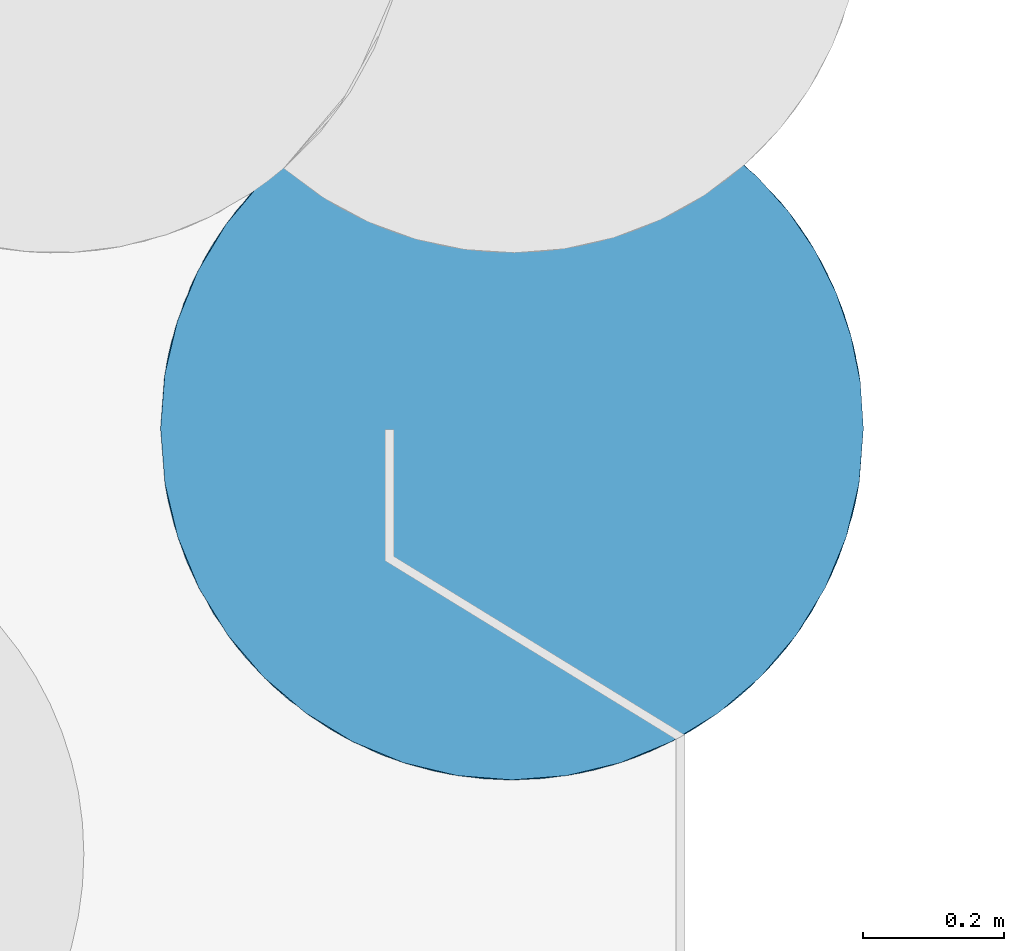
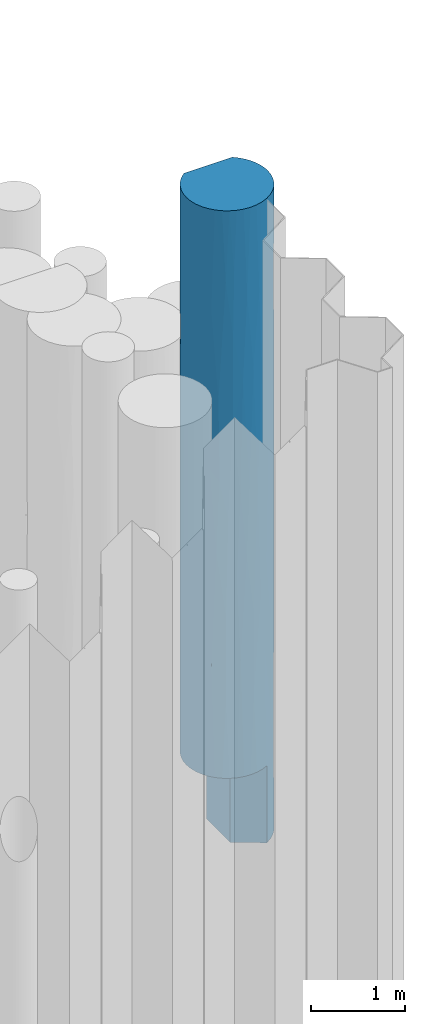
# One storey, part 100 of 104: 1 pile.
"""IFC2X3 building model written with IfcOpenShell, lengths in millimetres."""

from ifc_helpers import new_model, entity, si_unit, converted_unit, derived_unit, direction, frame, origin, place, context, subcontext, project, spatial, faceted_brep, source, transform, mapped, material, element, save


model = new_model("IFC2X3")

# Units and contexts
model_context = context("Model", 3, precision=0.01, world=origin(), true_north=direction((6.12303176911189e-17, 1.0)))
body_context = subcontext(model_context, "Body", "Model", "MODEL_VIEW")
ifc_project = project(units=[si_unit("LENGTHUNIT", "METRE", prefix="MILLI"), si_unit("AREAUNIT", "SQUARE_METRE", prefix="MILLI"), si_unit("VOLUMEUNIT", "CUBIC_METRE"), converted_unit("PLANEANGLEUNIT", "DEGREE", entity("IfcRatioMeasure", 0.0174532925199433), si_unit("PLANEANGLEUNIT", "RADIAN"), dimensions=[0, 0, 0, 0, 0, 0, 0]), si_unit("MASSUNIT", "GRAM", prefix="KILO"), derived_unit("MASSDENSITYUNIT", [(si_unit("MASSUNIT", "GRAM", prefix="KILO"), 1), (si_unit("LENGTHUNIT", "METRE"), -3)]), derived_unit("MOMENTOFINERTIAUNIT", [(si_unit("LENGTHUNIT", "METRE"), 4)]), si_unit("TIMEUNIT", "SECOND"), si_unit("FREQUENCYUNIT", "HERTZ"), si_unit("THERMODYNAMICTEMPERATUREUNIT", "DEGREE_CELSIUS"), derived_unit("THERMALTRANSMITTANCEUNIT", [(si_unit("MASSUNIT", "GRAM", prefix="KILO"), 1), (si_unit("THERMODYNAMICTEMPERATUREUNIT", "KELVIN"), -1), (si_unit("TIMEUNIT", "SECOND"), -3)]), derived_unit("VOLUMETRICFLOWRATEUNIT", [(si_unit("LENGTHUNIT", "METRE"), 3), (si_unit("TIMEUNIT", "SECOND"), -1)]), si_unit("ELECTRICCURRENTUNIT", "AMPERE"), si_unit("ELECTRICVOLTAGEUNIT", "VOLT"), si_unit("POWERUNIT", "WATT"), si_unit("FORCEUNIT", "NEWTON", prefix="KILO"), si_unit("ILLUMINANCEUNIT", "LUX"), si_unit("LUMINOUSFLUXUNIT", "LUMEN"), si_unit("LUMINOUSINTENSITYUNIT", "CANDELA"), derived_unit("USERDEFINED", [(si_unit("MASSUNIT", "GRAM", prefix="KILO"), -1), (si_unit("LENGTHUNIT", "METRE"), -2), (si_unit("TIMEUNIT", "SECOND"), 3), (si_unit("LUMINOUSFLUXUNIT", "LUMEN"), 1)]), derived_unit("LINEARVELOCITYUNIT", [(si_unit("LENGTHUNIT", "METRE"), 1), (si_unit("TIMEUNIT", "SECOND"), -1)]), si_unit("PRESSUREUNIT", "PASCAL"), derived_unit("USERDEFINED", [(si_unit("LENGTHUNIT", "METRE"), -2), (si_unit("MASSUNIT", "GRAM", prefix="KILO"), 1), (si_unit("TIMEUNIT", "SECOND"), -2)]), derived_unit("LINEARFORCEUNIT", [(si_unit("MASSUNIT", "GRAM", prefix="KILO"), 1), (si_unit("LENGTHUNIT", "METRE"), 1), (si_unit("TIMEUNIT", "SECOND"), -2), (si_unit("LENGTHUNIT", "METRE"), -1)]), derived_unit("PLANARFORCEUNIT", [(si_unit("MASSUNIT", "GRAM", prefix="KILO"), 1), (si_unit("LENGTHUNIT", "METRE"), 1), (si_unit("TIMEUNIT", "SECOND"), -2), (si_unit("LENGTHUNIT", "METRE"), -2)])], contexts=[model_context])

# Site, building, storey
site_placement = place(None, origin())
site = spatial("IfcSite", under=ifc_project, at=site_placement, Name="Theater aan de Parade", CompositionType="ELEMENT")
building_placement = place(site_placement, origin())
building = spatial("IfcBuilding", under=site, at=building_placement, Name="Theater aan de Parade", CompositionType="ELEMENT")
storey_placement = place(building_placement, frame((0.0, 0.0, -5520.0)))
storey = spatial("IfcBuildingStorey", under=building, at=storey_placement, Name="-2 kelder", CompositionType="ELEMENT", Elevation=-5520.0)

# Pile
ifc_material = material(Name="00_PBT_MAT_grout")
shared_shape = source(origin(), body_context, "Body", "Brep", [
    faceted_brep([(770.871789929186, 830.299465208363, 0.0), (832.314186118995, 876.595272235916, 0.0), (881.822434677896, 826.290983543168, 0.0), (923.771781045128, 769.488899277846, 0.0), (957.301975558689, 707.341233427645, 0.0), (981.74330748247, 641.086720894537, 0.0), (996.606788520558, 572.048084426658, 0.0), (1001.59527223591, 501.595272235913, 0.0), (995.897713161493, 426.328434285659, 0.0), (978.935325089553, 352.778358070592, 0.0), (951.094810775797, 282.620011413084, 0.0), (913.010956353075, 217.452465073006, 0.0), (865.551878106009, 158.760634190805, 0.0), (809.799281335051, 107.88181199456, 0.0), (747.105277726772, 66.0302504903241, 0.0), (740.926580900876, 62.595813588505, 0.0), (734.726926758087, 59.272277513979, 0.0), (401.595272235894, 263.735660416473, 0.0), (401.595272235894, 761.697323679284, 0.0), (477.932834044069, 752.155497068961, 0.0), (554.830577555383, 754.437347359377, 0.0), (630.468034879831, 768.488854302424, 0.0), (703.054573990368, 793.977364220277, 0.0), (987.547939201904, 619.281318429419, 4708.12497229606), (1001.59527223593, 501.595272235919, 5231.25), (1001.59527223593, 501.595272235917, 4185.0), (991.044227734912, 603.770220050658, 6520.00001925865), (974.219097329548, 664.772231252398, 7530.98170234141), (1001.59527223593, 501.595272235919, 7323.74999999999), (941.63540237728, 739.007748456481, 1966.46274083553), (970.693809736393, 674.646022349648, 1063.65623429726), (921.2564424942, 773.412310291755, 1017.10994283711), (982.952048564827, 636.856700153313, 5633.41490432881), (1001.59527223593, 501.595272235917, 6277.5), (1001.59527223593, 501.595272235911, 5246.95201421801), (988.144010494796, 616.792170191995, 2148.29182678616), (959.404576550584, 702.619253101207, 6320.0), (959.404576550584, 702.619253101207, 6720.0), (903.432070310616, 799.130459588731, 3522.69098420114), (899.551672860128, 804.300910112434, 4823.55689182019), (943.665169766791, 735.206499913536, 4306.42935662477), (832.314186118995, 876.595272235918, 6320.0), (882.945247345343, 824.971518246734, 6320.0), (832.314186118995, 876.595272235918, 4721.53772671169), (832.314186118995, 876.595272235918, 1561.53758584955), (997.17946559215, 567.899927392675, 8370.0), (1001.59527223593, 501.595272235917, 8370.0), (1001.59527223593, 501.595272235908, 7589.21504739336), (1001.59527223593, 501.595272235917, 780.768859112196), (932.524912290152, 755.169019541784, 8370.0), (962.335213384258, 695.80831667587, 8370.0), (984.014995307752, 633.015250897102, 8370.0), (912.089092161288, 787.068254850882, 7539.19405571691), (982.884519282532, 637.096787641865, 3365.29841226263), (1001.59527223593, 501.595272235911, 3123.047985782), (1001.59527223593, 501.595272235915, 2873.26885911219), (1001.59527223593, 501.595272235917, 1561.53771822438), (892.800783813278, 812.976465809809, 6720.0), (849.412736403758, 860.793005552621, 6720.0), (994.617082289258, 584.838859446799, 1171.15327801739), (925.609923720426, 766.569941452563, 6320.0), (943.66516990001, 735.206499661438, 5340.68441338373), (1001.59527223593, 501.595272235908, 6808.52191943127), (832.314186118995, 876.595272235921, 3922.30659006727), (892.794685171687, 812.984127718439, 2539.13160477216), (832.314186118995, 876.595272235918, 3123.07545342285), (850.753661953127, 859.489696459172, 8370.0), (895.11105601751, 810.051635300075, 8370.0), (929.664368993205, 759.968739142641, 6720.0), (800.225087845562, 902.619253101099, 7500.7687984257), (800.225087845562, 902.619253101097, 6720.0), (800.225087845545, 902.619253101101, 8370.0), (950.693825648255, 721.391744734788, 3480.4309616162), (122.950427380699, 175.055716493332, 2410.0843275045), (98.3404428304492, 205.984814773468, 1000.0), (149.926579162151, 146.167177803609, 1000.0), (995.439442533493, 423.378039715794, 8370.0), (977.123530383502, 347.086775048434, 8370.0), (992.78524905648, 408.147925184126, 7198.84672060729), (389.271562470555, 14.3752149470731, 2524.16102548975), (428.107597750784, 7.02519459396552, 1000.0), (546.38750317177, 3.60565783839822, 2023.84597193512), (462.365724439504, 3.13660536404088, 7230.48180055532), (415.053067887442, 9.14177507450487, 6148.72769110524), (540.82482020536, 3.13660537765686, 6277.64902594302), (263.417261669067, 61.9690272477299, 4371.10040172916), (161.635668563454, 134.951756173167, 3917.59583609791), (243.298763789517, 73.4797344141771, 3110.2313261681), (56.8183843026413, 273.180036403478, 1000.0), (7.83455139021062, 422.852967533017, 1000.0), (11.1706827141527, 404.210869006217, 2293.82507850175), (1.5952722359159, 501.595272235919, 1000.0), (990.322839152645, 396.023659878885, 4601.67544470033), (957.695725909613, 296.723663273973, 3933.91935776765), (989.548135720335, 392.498970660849, 3430.95266247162), (320.78504298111, 35.4325742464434, 7573.08221403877), (240.345989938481, 75.2751900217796, 7436.20249185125), (310.253556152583, 39.6555059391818, 6742.39678732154), (699.05980340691, 42.2394635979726, 2524.16102519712), (817.446970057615, 113.990183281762, 1619.20905589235), (810.287487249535, 108.264474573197, 2852.64706515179), (952.081335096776, 284.656785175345, 2738.79716932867), (991.433338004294, 401.302354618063, 2377.76120332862), (243.298763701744, 73.4797344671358, 2023.84597219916), (351.137442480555, 24.7698938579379, 1000.0), (121.392289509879, 176.871247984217, 7059.72320785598), (148.041881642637, 148.041881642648, 8370.0), (40.1657833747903, 309.026253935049, 2503.62242250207), (210.289352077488, 95.2200012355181, 1000.0), (277.922280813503, 54.4147796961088, 1000.0), (807.209962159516, 105.868521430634, 813.776263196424), (890.390500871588, 187.209728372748, 1061.02822404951), (985.271371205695, 374.877352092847, 5893.06963973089), (506.91179348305, 1.62353843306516, 1000.0), (585.583304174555, 8.69973513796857, 1000.0), (890.390500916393, 187.209728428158, 2177.38988758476), (894.869452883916, 192.830930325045, 3410.44282522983), (36.2135120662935, 318.784393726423, 5388.39479917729), (76.2504148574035, 238.76119472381, 3869.25879503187), (112.513600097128, 187.564298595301, 4984.00541361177), (26.3966744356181, 346.075843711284, 1000.0), (39.6555060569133, 310.25355586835, 6308.17154752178), (39.6555060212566, 310.253555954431, 7370.66061459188), (12.9280755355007, 395.744571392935, 6839.41608086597), (39.5302034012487, 310.556343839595, 3387.81663149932), (20.9037533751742, 363.988354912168, 4575.57786477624), (11.8157539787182, 401.016827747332, 3232.88442729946), (7.75110193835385, 423.378039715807, 8370.0), (1.5952722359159, 501.595272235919, 8370.0), (1.5952722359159, 501.595272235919, 7589.23299295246), (1.5952722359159, 501.595272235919, 6808.45885589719), (947.098534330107, 274.600022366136, 8370.0), (963.535038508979, 310.253556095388, 7080.59324549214), (56.09201014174, 274.600022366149, 8370.0), (26.0670140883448, 347.086775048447, 8370.0), (644.482386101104, 22.4467851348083, 3295.25085188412), (598.328457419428, 11.0418185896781, 4675.26615390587), (546.387503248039, 3.6056578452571, 3110.23132560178), (662.158715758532, 28.0771832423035, 1000.0), (97.086775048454, 207.702646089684, 8370.0), (389.271562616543, 14.3752149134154, 4682.96392055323), (308.452166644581, 40.40578757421, 5564.61929110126), (618.317954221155, 15.4103120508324, 7230.48180070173), (660.411732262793, 27.4883939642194, 6175.89765401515), (762.844554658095, 75.2751900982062, 6612.75580358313), (274.600022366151, 56.0920101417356, 8370.0), (207.702646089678, 97.0867750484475, 8370.0), (460.294261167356, 3.30396538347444, 3836.0735966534), (493.657594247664, 1.65828293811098, 4757.14680371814), (423.378039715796, 7.75110193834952, 8370.0), (176.87124820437, 121.392289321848, 5908.10962635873), (501.595272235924, 1.5952722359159, 8370.0), (841.796813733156, 135.176234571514, 5723.8302852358), (881.798255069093, 176.871248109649, 7080.59324537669), (734.72692675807, 59.2722775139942, 1000.0), (97.8754022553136, 206.62024518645, 6039.37968862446), (993.058647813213, 409.596628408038, 1004.42648477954), (730.988121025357, 57.3217968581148, 3673.16571335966), (906.103769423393, 207.702646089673, 8370.0), (966.340853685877, 317.173081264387, 1503.70220925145), (348.591887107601, 25.5806042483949, 3603.56247310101), (579.812504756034, 7.75110193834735, 8370.0), (837.259672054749, 131.0154418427, 4868.68618718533), (899.344862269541, 198.61794036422, 4723.22742854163), (656.103769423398, 26.0670140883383, 8370.0), (762.844554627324, 75.2751900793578, 7528.42562980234), (728.590522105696, 56.0920101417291, 8370.0), (795.487898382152, 97.0867750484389, 8370.0), (927.915354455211, 240.345989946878, 5952.78193641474), (855.148662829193, 148.041881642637, 8370.0), (956.603892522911, 294.310069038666, 4996.08343107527), (1.5952722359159, 501.595272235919, 3904.21045994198), (1.5952722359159, 501.595272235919, 3623.26427277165), (1.5952722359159, 501.595272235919, 2561.52217609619), (10.9686450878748, 405.233906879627, 5796.39828494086), (347.086775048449, 26.0670140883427, 8370.0), (1.5952722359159, 501.595272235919, 5246.91771179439), (1.5952722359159, 501.595272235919, 4684.99453144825), (825.193624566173, 120.433749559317, 3988.99940201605), (762.84455470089, 75.2751901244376, 4818.846392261), (186.456332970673, 113.410459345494, 4843.74509710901), (680.503086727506, 34.6991446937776, 5076.38298115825), (740.646531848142, 62.4432538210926, 5715.80109787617), (1.5952722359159, 501.595272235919, 6527.50273427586), (1.5952722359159, 501.595272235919, 5606.24863286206), (202.965456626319, 902.619253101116, 8370.0), (144.593900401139, 851.666722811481, 8370.0), (94.7951473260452, 792.307601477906, 8370.0), (54.7651031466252, 725.967284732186, 8370.0), (25.4650925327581, 654.238817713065, 8370.0), (7.59879210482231, 578.844722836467, 8370.0), (49.2994735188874, 714.734922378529, 1000.0), (85.3376468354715, 778.596335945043, 1000.0), (130.318955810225, 836.489131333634, 1000.0), (153.991316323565, 853.40356900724, 1000.0), (176.595272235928, 871.628168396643, 1000.0), (227.153587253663, 833.645799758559, 1000.0), (282.101655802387, 802.348622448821, 1000.0), (340.560571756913, 778.237241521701, 1000.0), (401.595272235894, 761.697323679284, 1000.0), (401.595272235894, 263.735660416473, 1000.0), (6.97279237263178, 574.729412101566, 1000.0), (22.9890823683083, 646.2884476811, 1000.0), (768.800439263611, 828.982685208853, 6320.0), (698.552102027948, 792.021548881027, 6320.0), (623.33970071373, 766.643425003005, 6320.0), (545.058874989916, 753.487939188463, 6320.0), (465.682600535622, 752.886659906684, 6320.0), (387.211462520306, 764.854741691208, 6320.0), (311.623233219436, 789.090543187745, 6320.0), (240.823024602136, 824.983229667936, 6320.0), (176.595272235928, 871.628168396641, 6320.0), (153.991316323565, 853.403569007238, 6320.0), (130.318955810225, 836.489131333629, 6320.0), (96.7667567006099, 795.046925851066, 6320.0), (67.8227250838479, 750.274538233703, 6320.0), (43.7859679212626, 702.61925310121, 6320.0), (43.7859679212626, 702.619253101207, 6720.0), (73.5254522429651, 759.967540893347, 6720.0), (110.394429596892, 812.982331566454, 6720.0), (153.787933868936, 860.802810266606, 6720.0), (202.965456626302, 902.619253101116, 6720.0), (153.802921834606, 853.260568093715, 1740.58338739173), (130.318955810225, 836.489131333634, 1823.85201305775), (153.234451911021, 852.829921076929, 2021.1478049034), (130.318955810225, 836.489131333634, 4172.88647080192), (130.318955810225, 836.489131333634, 4368.08414943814), (130.318955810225, 836.489131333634, 4563.28182807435), (154.612100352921, 853.875770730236, 4405.38671347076), (130.318955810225, 836.489131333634, 1549.23467537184), (156.118845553, 855.028262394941, 1519.95469385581), (153.967988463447, 853.385854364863, 1292.78831994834), (153.967988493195, 853.385854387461, 4621.15450615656), (152.825285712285, 852.520744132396, 3294.52069218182), (130.318955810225, 836.489131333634, 3196.93870148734), (130.318955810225, 836.489131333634, 3392.13638012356), (153.967988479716, 853.385854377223, 5344.0389329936), (153.967988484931, 853.385854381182, 5067.76019476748), (153.967988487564, 853.385854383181, 4845.59628334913), (130.318955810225, 836.489131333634, 4758.47950671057), (130.318955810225, 836.489131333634, 4953.67718534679), (130.318955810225, 836.489131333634, 5148.85455204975), (130.318955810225, 836.489131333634, 5344.03191875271), (130.318955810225, 836.489131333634, 5539.22959738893), (130.318955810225, 836.489131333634, 5734.42727602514), (130.318955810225, 836.489131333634, 5929.62495466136), (130.318955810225, 836.489131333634, 6124.82263329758), (153.967988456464, 853.385854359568, 6027.21167991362), (153.967988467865, 853.385854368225, 5759.23593356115), (153.967988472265, 853.385854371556, 5552.00433968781), (130.318955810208, 836.489131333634, 1195.19767863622), (153.175040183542, 852.784987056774, 2998.94030647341), (153.447299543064, 852.991015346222, 2785.0012257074), (176.595272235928, 871.628168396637, 2995.0), (176.595272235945, 871.628168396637, 6124.80988958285), (176.595272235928, 871.628168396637, 5929.59849575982), (176.595272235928, 871.628168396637, 5734.40838534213), (176.595272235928, 871.628168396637, 5539.21827492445), (176.595272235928, 871.628168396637, 5344.02816450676), (176.595272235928, 871.628168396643, 5221.53770730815), (176.595272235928, 871.628168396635, 5148.83805408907), (176.595272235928, 871.628168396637, 4953.64794367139), (176.595272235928, 871.628168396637, 4758.4578332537), (176.595272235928, 871.628168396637, 4483.83805408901), (176.595272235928, 871.628168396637, 1195.19011041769), (176.595272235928, 871.628168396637, 1390.38022083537), (155.105235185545, 854.251966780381, 4075.28954581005), (176.595272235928, 871.628168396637, 3934.61977916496), (152.562458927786, 852.322492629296, 3835.72823263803), (152.616886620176, 852.363525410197, 2235.77007934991), (176.595272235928, 871.628168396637, 2330.0), (176.595272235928, 871.628168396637, 1997.48935829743), (176.595272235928, 871.628168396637, 2662.51064170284), (154.547417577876, 853.826498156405, 2510.38565253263), (176.595272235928, 871.628168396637, 3660.0), (153.920726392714, 853.349971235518, 3626.05736512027), (130.318955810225, 836.489131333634, 3977.70910409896), (176.595272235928, 871.628168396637, 1665.0), (130.318955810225, 836.489131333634, 2373.08668842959), (130.318955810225, 836.489131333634, 2647.70402611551), (130.318955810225, 836.489131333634, 1780.7682921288), (176.595272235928, 871.628168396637, 4209.21827492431), (176.595272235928, 871.628168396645, 4123.07541461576), (130.318955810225, 836.489131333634, 3782.531737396), (130.318955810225, 836.489131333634, 3587.33405875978), (176.595272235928, 871.628168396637, 3327.48935829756), (130.318955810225, 836.489131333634, 2098.46935074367), (130.318955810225, 836.489131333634, 2922.32136380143), (176.595272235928, 871.628168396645, 2561.53770730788), (310.949554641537, 789.367827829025, 2162.86006174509), (729.699011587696, 806.658553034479, 2311.82929668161), (667.252249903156, 779.834988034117, 1094.82282342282), (592.919958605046, 760.006214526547, 2002.08069310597), (439.109004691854, 755.515171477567, 2170.5800046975), (558.869833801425, 754.886479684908, 1025.70188164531), (275.509726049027, 805.629661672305, 4978.87145291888), (370.816180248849, 769.001417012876, 3211.04271841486), (696.612329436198, 791.19506871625, 5242.24654559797), (763.038601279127, 825.394162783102, 979.572942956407), (634.896696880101, 769.692034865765, 3262.54319216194), (661.450316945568, 777.837565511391, 4221.25741031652), (734.077239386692, 808.930461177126, 3404.28590953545), (584.460766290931, 758.509772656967, 5175.37176489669), (308.284558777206, 790.476016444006, 4021.56542098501), (426.209154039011, 757.311008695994, 4743.38912991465), (529.5880539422, 752.37948305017, 3400.26724881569), (260.428712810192, 813.601333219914, 3133.96987814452), (751.522700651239, 818.540679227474, 4482.25498387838), (563.597258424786, 755.454411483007, 4270.65246311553), (202.965456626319, 902.619253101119, 7500.76983670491), (62.6918402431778, 741.102636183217, 5086.96864073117), (9.81023703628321, 591.858659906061, 2771.92598839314), (15.7412238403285, 619.687793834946, 3879.42082692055), (13.667321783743, 610.802942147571, 1930.37354578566), (46.2578055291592, 708.157106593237, 7554.0277340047), (66.1462708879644, 747.327173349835, 1930.3723485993), (15.069320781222, 616.888370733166, 7476.16246529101), (12.4927515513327, 605.415907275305, 6520.0), (91.1031935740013, 787.07075867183, 7519.34132705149), (17.9726284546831, 628.517052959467, 5236.62099040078), (34.8878069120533, 680.994664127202, 2654.58414948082), (77.7549544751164, 766.848707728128, 2800.84051817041), (73.1115211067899, 759.280496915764, 3977.69343679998)], [[[0, 1, 2, 3, 4, 5, 6, 7, 8, 9, 10, 11, 12, 13, 14, 15, 16, 17, 18, 19, 20, 21, 22]], [[23, 24, 25]], [[26, 27, 28]], [[29, 30, 31]], [[3, 31, 4]], [[32, 33, 34, 24]], [[30, 29, 35]], [[26, 36, 37]], [[38, 39, 40]], [[41, 42, 43]], [[32, 24, 23]], [[1, 44, 2]], [[45, 28, 27]], [[45, 46, 47, 28]], [[7, 6, 48]], [[49, 50, 27]], [[51, 27, 50]], [[52, 49, 27]], [[53, 25, 54, 55]], [[27, 37, 52]], [[35, 55, 56]], [[4, 31, 30]], [[52, 57, 58]], [[56, 48, 59]], [[44, 31, 2]], [[60, 61, 42]], [[4, 30, 5]], [[60, 36, 61]], [[26, 28, 62, 33]], [[27, 51, 45]], [[43, 39, 63]], [[26, 37, 27]], [[38, 64, 65]], [[52, 66, 67]], [[52, 68, 57]], [[69, 52, 58]], [[59, 5, 30]], [[69, 66, 52]], [[52, 37, 68]], [[58, 70, 69]], [[66, 69, 71]], [[36, 26, 32]], [[39, 61, 40]], [[32, 61, 36]], [[39, 42, 61]], [[23, 53, 40]], [[49, 52, 67]], [[61, 23, 40]], [[6, 5, 59]], [[53, 23, 25]], [[65, 63, 38]], [[29, 53, 35]], [[55, 35, 53]], [[32, 26, 33]], [[61, 32, 23]], [[2, 31, 3]], [[64, 31, 44]], [[63, 39, 38]], [[42, 39, 43]], [[64, 72, 29]], [[72, 38, 40]], [[38, 72, 64]], [[31, 64, 29]], [[44, 65, 64]], [[40, 53, 72]], [[29, 72, 53]], [[59, 35, 56]], [[6, 59, 48]], [[35, 59, 30]], [[73, 74, 75]], [[76, 77, 78]], [[79, 80, 81]], [[82, 83, 84]], [[85, 86, 87]], [[74, 73, 88]], [[89, 90, 91]], [[92, 93, 94]], [[95, 96, 97]], [[98, 99, 100]], [[101, 102, 94]], [[103, 79, 87]], [[103, 104, 79]], [[105, 96, 106]], [[73, 107, 88]], [[104, 80, 79]], [[108, 109, 103]], [[99, 110, 111]], [[112, 62, 78]], [[81, 113, 114]], [[100, 115, 116]], [[117, 118, 119]], [[120, 107, 90]], [[121, 122, 123]], [[124, 125, 126]], [[120, 88, 107]], [[127, 128, 129, 130]], [[131, 132, 77]], [[119, 118, 86]], [[122, 133, 134]], [[135, 136, 137]], [[81, 138, 98]], [[105, 139, 122]], [[105, 106, 139]], [[140, 141, 85]], [[142, 143, 144]], [[96, 145, 146]], [[147, 136, 148]], [[95, 82, 149]], [[96, 150, 97]], [[82, 151, 149]], [[152, 153, 144]], [[13, 110, 14]], [[73, 87, 86]], [[154, 16, 15]], [[103, 73, 75]], [[150, 155, 119]], [[154, 15, 14]], [[111, 110, 12]], [[122, 139, 133]], [[156, 8, 7]], [[81, 80, 113]], [[157, 98, 100]], [[132, 131, 158, 153]], [[159, 10, 9]], [[102, 56, 55, 54]], [[156, 9, 8]], [[160, 140, 85]], [[12, 11, 111]], [[160, 147, 140]], [[103, 75, 108]], [[161, 151, 82, 142]], [[138, 154, 98]], [[123, 127, 130]], [[81, 98, 135]], [[159, 115, 111]], [[162, 163, 152]], [[164, 142, 165]], [[166, 165, 167]], [[156, 7, 48, 56]], [[164, 161, 142]], [[168, 132, 153]], [[78, 62, 28, 47]], [[142, 82, 84]], [[111, 10, 159]], [[169, 165, 153]], [[154, 110, 99]], [[107, 126, 90]], [[112, 170, 92]], [[126, 171, 172, 173]], [[158, 169, 153]], [[83, 141, 140]], [[121, 123, 174]], [[96, 95, 145]], [[165, 169, 167]], [[124, 73, 118]], [[112, 34, 33, 62]], [[165, 166, 164]], [[95, 149, 175]], [[83, 82, 97]], [[143, 142, 84]], [[142, 144, 165]], [[111, 11, 10]], [[111, 115, 99]], [[81, 114, 138]], [[79, 81, 137]], [[103, 109, 104]], [[73, 103, 87]], [[122, 134, 127]], [[105, 122, 121]], [[106, 96, 146]], [[150, 96, 105]], [[77, 132, 78]], [[47, 46, 76]], [[153, 165, 144]], [[76, 78, 47]], [[78, 132, 112]], [[132, 168, 112]], [[93, 170, 163]], [[93, 163, 116]], [[93, 116, 101]], [[125, 176, 177, 171]], [[126, 173, 90]], [[125, 117, 174]], [[100, 99, 115]], [[98, 154, 99]], [[115, 101, 116]], [[116, 178, 100]], [[92, 170, 93]], [[157, 178, 179]], [[152, 163, 168]], [[163, 162, 178]], [[141, 83, 97]], [[148, 83, 140]], [[97, 150, 141]], [[87, 79, 160]], [[150, 180, 141]], [[86, 85, 180]], [[157, 179, 181]], [[135, 98, 157]], [[143, 182, 144]], [[147, 148, 140]], [[115, 159, 101]], [[102, 101, 159]], [[153, 152, 168]], [[152, 144, 182]], [[86, 180, 119]], [[73, 86, 118]], [[155, 150, 105]], [[117, 121, 174]], [[84, 136, 143]], [[182, 181, 179]], [[127, 123, 122]], [[174, 130, 183, 184, 176]], [[130, 174, 123]], [[125, 174, 176]], [[102, 159, 156]], [[94, 102, 54]], [[100, 178, 157]], [[163, 178, 116]], [[87, 160, 85]], [[147, 79, 137]], [[79, 147, 160]], [[136, 147, 137]], [[136, 84, 148]], [[83, 148, 84]], [[94, 25, 92]], [[101, 94, 93]], [[34, 112, 92]], [[170, 112, 168]], [[25, 94, 54]], [[92, 25, 24, 34]], [[168, 163, 170]], [[118, 117, 125]], [[155, 117, 119]], [[124, 126, 107]], [[125, 171, 126]], [[105, 121, 155]], [[117, 155, 121]], [[82, 95, 97]], [[145, 95, 175]], [[181, 143, 136]], [[152, 182, 179]], [[143, 181, 182]], [[157, 181, 136]], [[91, 90, 173]], [[120, 90, 89]], [[102, 156, 56]], [[9, 156, 159]], [[14, 110, 154]], [[110, 13, 12]], [[136, 135, 157]], [[81, 135, 137]], [[152, 179, 162]], [[178, 162, 179]], [[141, 180, 85]], [[150, 119, 180]], [[73, 124, 107]], [[125, 124, 118]], [[67, 66, 71, 185, 186, 187, 188, 189, 190, 128, 127, 134, 133, 139, 106, 146, 145, 175, 149, 151, 161, 164, 166, 167, 169, 158, 131, 77, 76, 46, 45, 51, 50, 49]], [[191, 192, 193, 194, 195, 196, 197, 198, 199, 200, 154, 138, 114, 113, 80, 104, 109, 108, 75, 74, 88, 120, 89, 91, 201, 202]], [[36, 60, 42, 41, 203, 204, 205, 206, 207, 208, 209, 210, 211, 212, 213, 214, 215, 216]], [[70, 58, 57, 68, 37, 217, 218, 219, 220, 221]], [[37, 36, 216, 217]], [[222, 223, 224]], [[225, 226, 227, 228]], [[229, 230, 231]], [[228, 227, 232]], [[233, 234, 235]], [[236, 237, 238, 232, 227, 239, 240, 241, 242, 243, 244, 245, 246, 247, 248, 249]], [[231, 250, 229]], [[234, 233, 251]], [[252, 251, 253]], [[254, 255, 256, 257, 258, 259, 260, 261, 262, 263, 232, 238, 237, 236, 249, 248, 247]], [[264, 231, 265]], [[266, 267, 268]], [[269, 270, 271]], [[272, 273, 252]], [[274, 275, 268]], [[276, 266, 268]], [[194, 231, 264]], [[222, 277, 230]], [[247, 212, 254]], [[194, 193, 250]], [[213, 212, 246]], [[230, 265, 231]], [[247, 246, 212]], [[212, 211, 254]], [[264, 195, 194]], [[232, 263, 228]], [[250, 231, 194]], [[230, 277, 265]], [[224, 269, 271]], [[278, 279, 273]], [[229, 222, 230]], [[277, 222, 271]], [[222, 229, 280, 223]], [[228, 263, 281]], [[266, 225, 228]], [[266, 276, 225]], [[281, 266, 228]], [[266, 281, 282, 267]], [[283, 276, 268]], [[268, 267, 274]], [[278, 273, 269]], [[284, 283, 275, 235]], [[274, 285, 275]], [[269, 286, 278]], [[252, 287, 251]], [[287, 252, 279]], [[273, 272, 288, 270]], [[279, 252, 273]], [[272, 252, 253]], [[285, 253, 233]], [[251, 287, 234]], [[224, 286, 269]], [[270, 269, 273]], [[286, 224, 223]], [[224, 271, 222]], [[268, 275, 283]], [[233, 253, 251]], [[275, 233, 235]], [[285, 233, 275]], [[198, 289, 199]], [[290, 291, 292]], [[199, 289, 293]], [[294, 292, 291]], [[209, 295, 210]], [[196, 195, 264, 265, 277, 271, 270, 288]], [[295, 209, 208]], [[296, 293, 289]], [[289, 197, 196]], [[290, 65, 44]], [[204, 297, 205]], [[22, 21, 291]], [[295, 259, 210]], [[0, 298, 1]], [[299, 300, 301]], [[206, 205, 302]], [[303, 295, 304]], [[203, 297, 204]], [[19, 18, 199]], [[290, 298, 291]], [[21, 294, 291]], [[206, 302, 207]], [[296, 304, 305]], [[303, 306, 282]], [[288, 289, 196]], [[291, 298, 22]], [[304, 295, 208]], [[307, 43, 63, 65]], [[294, 21, 20]], [[207, 304, 208]], [[306, 289, 288]], [[20, 19, 294]], [[207, 302, 304]], [[305, 293, 296]], [[296, 289, 306]], [[300, 302, 297]], [[297, 302, 205]], [[298, 44, 1]], [[43, 203, 41]], [[305, 304, 308]], [[0, 22, 298]], [[289, 198, 197]], [[301, 307, 65]], [[199, 293, 294]], [[290, 299, 301]], [[293, 305, 292]], [[302, 300, 308]], [[296, 306, 303]], [[306, 288, 272, 253, 285, 274, 267, 282]], [[296, 303, 304]], [[295, 303, 282]], [[297, 307, 300]], [[43, 297, 203]], [[292, 294, 293]], [[199, 294, 19]], [[301, 300, 307]], [[307, 297, 43]], [[299, 308, 300]], [[290, 301, 65]], [[299, 292, 305]], [[292, 299, 290]], [[210, 259, 258, 257, 256, 255, 254, 211]], [[295, 282, 281, 263, 262, 261, 260, 259]], [[44, 298, 290]], [[302, 308, 304]], [[305, 308, 299]], [[200, 199, 18, 17]], [[154, 200, 17, 16]], [[70, 221, 309, 185, 71, 69]], [[310, 216, 215]], [[311, 172, 312]], [[202, 201, 313]], [[189, 188, 314]], [[214, 213, 246, 245, 244, 243, 242, 241, 240, 239]], [[315, 192, 191]], [[316, 317, 183]], [[317, 184, 183]], [[91, 313, 201]], [[309, 220, 318]], [[318, 186, 309]], [[202, 315, 191]], [[219, 218, 318]], [[317, 216, 319]], [[318, 188, 187]], [[186, 185, 309]], [[313, 320, 315]], [[315, 321, 280]], [[91, 173, 313]], [[192, 280, 229, 250, 193]], [[310, 214, 239]], [[177, 319, 312]], [[322, 239, 227, 226, 225, 276, 283, 284, 235, 234]], [[190, 189, 316]], [[186, 318, 187]], [[322, 310, 239]], [[129, 128, 190]], [[313, 315, 202]], [[218, 314, 318]], [[216, 317, 217]], [[129, 190, 316]], [[314, 188, 318]], [[316, 183, 130, 129]], [[217, 317, 316]], [[280, 192, 315]], [[321, 315, 320]], [[319, 184, 317]], [[311, 313, 173]], [[218, 217, 314]], [[219, 318, 220]], [[321, 322, 234]], [[309, 221, 220]], [[310, 322, 312]], [[311, 320, 313]], [[322, 320, 312]], [[321, 234, 287, 279, 278, 286, 223, 280]], [[320, 322, 321]], [[310, 312, 319]], [[216, 310, 319]], [[214, 310, 215]], [[312, 320, 311]], [[217, 316, 314]], [[189, 314, 316]], [[319, 177, 176, 184]], [[172, 311, 173]], [[312, 172, 171, 177]]]),
])
pile_placement = place(storey_placement, frame((87498.4047277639, 16952.3807468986, -3840.0)))
element("IfcPile", 1, at=pile_placement, inside=storey, material=ifc_material, Name="17_PBT_SFO_grondkering_rond:Ø1000 (grondkering)", ObjectType="17_PBT_SFO_grondkering_rond:Ø1000 (grondkering)", PredefinedType="NOTDEFINED", context=body_context, shape_type="MappedRepresentation", body=[
    mapped(shared_shape, transform((0.0, 0.0, 0.0), scale=1.0)),
])

save(model, "model.ifc")
